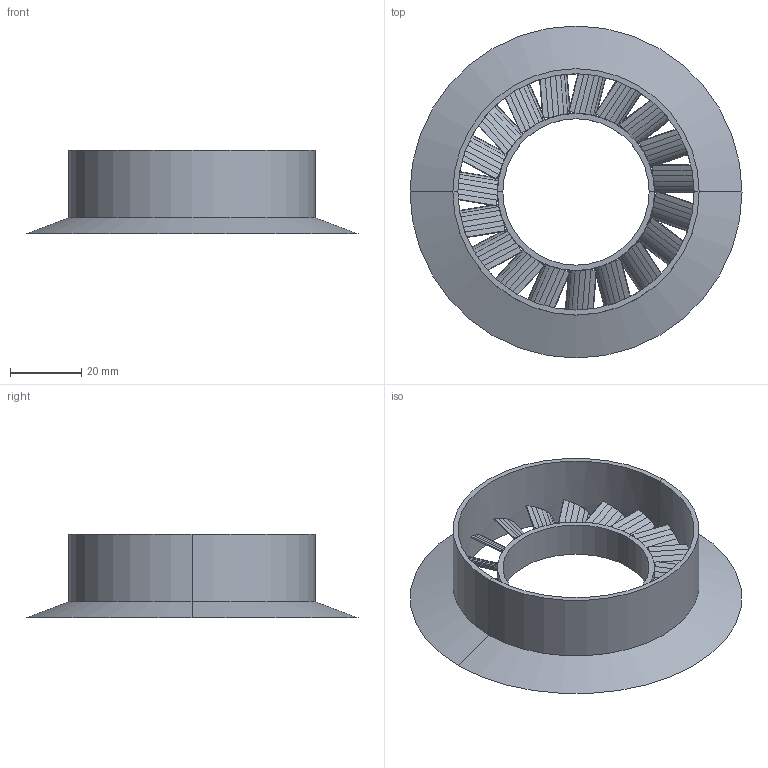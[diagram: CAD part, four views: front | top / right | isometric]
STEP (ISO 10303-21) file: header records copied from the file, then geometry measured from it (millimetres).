
FILE_DESCRIPTION(('BendCAD AP242 PMI export'),'2;1');
FILE_NAME('bendcad.step','',('BendCAD'),('BendCAD'),'BendCAD','BendCAD','');
FILE_SCHEMA(('AP242_MANAGED_MODEL_BASED_3D_ENGINEERING_MIM_LF'));
Products named in the file (1): BENDCAD
Bounding box: 93 x 93 x 23.5 mm (x, y, z)
Volume: 12757.5 mm3; surface area: 22875.4 mm2
Topology: 1 solids, 1 shells, 400 faces, 5353 edges, 4949 vertices
Faces by surface type: bspline 361, plane 27, cylinder 8, cone 4
Entity records: 59536 total; most frequent: CARTESIAN_POINT 30457, ORIENTED_EDGE 10706, EDGE_CURVE 5353, VERTEX_POINT 4949, B_SPLINE_CURVE_WITH_KNOTS 4918, DIRECTION 535, EDGE_LOOP 434, VECTOR 415
